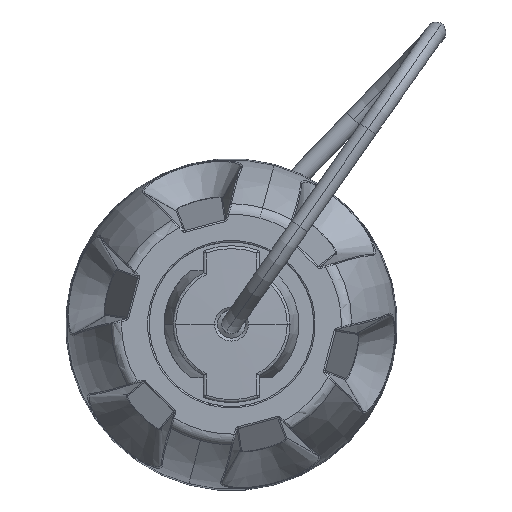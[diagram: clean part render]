
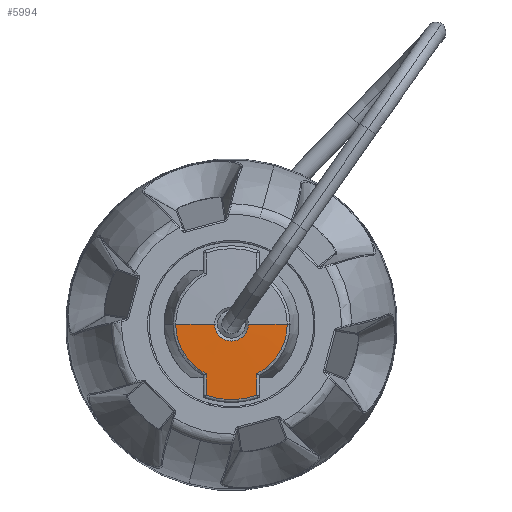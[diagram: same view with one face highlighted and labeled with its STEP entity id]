
A CAD part, top view. The second image highlights one B-rep face of the part: STEP entity #5994.
In plain terms, the highlighted conical face has half-angle 89 degrees and reference radius 57290 mm.
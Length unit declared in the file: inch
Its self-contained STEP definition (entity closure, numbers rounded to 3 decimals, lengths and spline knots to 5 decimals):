
#122 = CARTESIAN_POINT ( 'NONE',  ( 0.05709, 0., 1.08168 ) ) ;
#196 = CARTESIAN_POINT ( 'NONE',  ( 0., 0., 1.07824 ) ) ;
#431 = CARTESIAN_POINT ( 'NONE',  ( -0.08472, -0.16731, 1.0794 ) ) ;
#523 = EDGE_CURVE ( 'NONE', #9542, #9767, #1477, .T. ) ;
#581 = CARTESIAN_POINT ( 'NONE',  ( -0.08472, -0.18101, 1.07919 ) ) ;
#950 = LINE ( 'NONE', #15019, #9457 ) ;
#998 = CIRCLE ( 'NONE', #14869, 0.18754 ) ;
#1098 = CARTESIAN_POINT ( 'NONE',  ( 0.08472, -0.16731, 1.0794 ) ) ;
#1185 = EDGE_CURVE ( 'NONE', #4935, #11068, #7330, .T. ) ;
#1477 = CIRCLE ( 'NONE', #3401, 0.05709 ) ;
#1705 = B_SPLINE_CURVE_WITH_KNOTS ( 'NONE', 3,
 ( #431, #581, #10903, #9753, #5137, #12371, #12299 ),
 .UNSPECIFIED., .F., .F.,
 ( 4, 3, 4 ),
 ( 0., 0.00104, 0.00184 ),
 .UNSPECIFIED. ) ;
#1947 = DIRECTION ( 'NONE',  ( 1., 0., -0.017 ) ) ;
#2013 = AXIS2_PLACEMENT_3D ( 'NONE', #12815, #13875, #10503 ) ;
#2123 = DIRECTION ( 'NONE',  ( -1., 0., -0.017 ) ) ;
#2327 = EDGE_CURVE ( 'NONE', #5267, #8044, #1705, .T. ) ;
#2463 = CARTESIAN_POINT ( 'NONE',  ( 0.08471, -0.19365, 1.07899 ) ) ;
#2516 = ORIENTED_EDGE ( 'NONE', *, *, #2327, .T. ) ;
#2754 = ORIENTED_EDGE ( 'NONE', *, *, #3947, .T. ) ;
#2824 = EDGE_CURVE ( 'NONE', #9542, #3795, #950, .T. ) ;
#2992 = CARTESIAN_POINT ( 'NONE',  ( 0.08472, -0.16731, 1.0794 ) ) ;
#3401 = AXIS2_PLACEMENT_3D ( 'NONE', #10186, #11118, #13496 ) ;
#3435 = CARTESIAN_POINT ( 'NONE',  ( 0.08472, -0.18053, 1.0792 ) ) ;
#3543 = CARTESIAN_POINT ( 'NONE',  ( 0.0847, -0.23958, 1.07824 ) ) ;
#3795 = VERTEX_POINT ( 'NONE', #7159 ) ;
#3947 = EDGE_CURVE ( 'NONE', #8044, #4935, #9727, .T. ) ;
#4071 = ORIENTED_EDGE ( 'NONE', *, *, #5083, .T. ) ;
#4112 = CARTESIAN_POINT ( 'NONE',  ( 0., 0., 1.0794 ) ) ;
#4284 = LINE ( 'NONE', #12535, #9477 ) ;
#4738 = FACE_OUTER_BOUND ( 'NONE', #14630, .T. ) ;
#4859 = CARTESIAN_POINT ( 'NONE',  ( -0.08472, -0.16731, 1.0794 ) ) ;
#4935 = VERTEX_POINT ( 'NONE', #3543 ) ;
#4962 = CARTESIAN_POINT ( 'NONE',  ( 0., 0., -38.2874 ) ) ;
#5083 = EDGE_CURVE ( 'NONE', #9006, #5267, #998, .T. ) ;
#5137 = CARTESIAN_POINT ( 'NONE',  ( -0.08471, -0.21879, 1.07858 ) ) ;
#5267 = VERTEX_POINT ( 'NONE', #4859 ) ;
#5586 = CONICAL_SURFACE ( 'NONE', #11186, 2255.5103, 1.553 ) ;
#5738 = DIRECTION ( 'NONE',  ( 1., 0., 0. ) ) ;
#5994 = ADVANCED_FACE ( 'NONE', ( #4738 ), #5586, .T. ) ;
#6181 = DIRECTION ( 'NONE',  ( 1., 0., 0. ) ) ;
#6495 = ORIENTED_EDGE ( 'NONE', *, *, #2824, .F. ) ;
#6605 = EDGE_CURVE ( 'NONE', #9767, #9006, #4284, .T. ) ;
#6822 = CIRCLE ( 'NONE', #2013, 0.18754 ) ;
#7053 = CARTESIAN_POINT ( 'NONE',  ( -0.18754, 0., 1.0794 ) ) ;
#7057 = CARTESIAN_POINT ( 'NONE',  ( 0.08472, -0.17612, 1.07927 ) ) ;
#7110 = CARTESIAN_POINT ( 'NONE',  ( -0.05709, 0., 1.08168 ) ) ;
#7159 = CARTESIAN_POINT ( 'NONE',  ( 0.18754, 0., 1.0794 ) ) ;
#7330 = B_SPLINE_CURVE_WITH_KNOTS ( 'NONE', 3,
 ( #9333, #14162, #12643, #8198, #11485, #2463, #3435, #7057, #10396, #1098 ),
 .UNSPECIFIED., .F., .F.,
 ( 4, 3, 3, 4 ),
 ( 0., 0.0005, 0.0015, 0.00184 ),
 .UNSPECIFIED. ) ;
#7402 = ORIENTED_EDGE ( 'NONE', *, *, #523, .T. ) ;
#7719 = EDGE_CURVE ( 'NONE', #11068, #3795, #6822, .T. ) ;
#8044 = VERTEX_POINT ( 'NONE', #10211 ) ;
#8198 = CARTESIAN_POINT ( 'NONE',  ( 0.08471, -0.21989, 1.07856 ) ) ;
#8375 = DIRECTION ( 'NONE',  ( 0., 0., -1. ) ) ;
#8746 = DIRECTION ( 'NONE',  ( 0., 0., 1. ) ) ;
#8939 = ORIENTED_EDGE ( 'NONE', *, *, #6605, .T. ) ;
#9006 = VERTEX_POINT ( 'NONE', #7053 ) ;
#9219 = DIRECTION ( 'NONE',  ( 0., 0., 1. ) ) ;
#9237 = AXIS2_PLACEMENT_3D ( 'NONE', #196, #9219, #5738 ) ;
#9333 = CARTESIAN_POINT ( 'NONE',  ( 0.0847, -0.23958, 1.07824 ) ) ;
#9457 = VECTOR ( 'NONE', #1947, 39.37008 ) ;
#9477 = VECTOR ( 'NONE', #2123, 39.37008 ) ;
#9542 = VERTEX_POINT ( 'NONE', #122 ) ;
#9553 = ORIENTED_EDGE ( 'NONE', *, *, #7719, .T. ) ;
#9727 = CIRCLE ( 'NONE', #9237, 0.25411 ) ;
#9753 = CARTESIAN_POINT ( 'NONE',  ( -0.08471, -0.2084, 1.07875 ) ) ;
#9767 = VERTEX_POINT ( 'NONE', #7110 ) ;
#10004 = ORIENTED_EDGE ( 'NONE', *, *, #1185, .T. ) ;
#10186 = CARTESIAN_POINT ( 'NONE',  ( 0., 0., 1.08168 ) ) ;
#10211 = CARTESIAN_POINT ( 'NONE',  ( -0.0847, -0.23958, 1.07824 ) ) ;
#10396 = CARTESIAN_POINT ( 'NONE',  ( 0.08472, -0.17171, 1.07934 ) ) ;
#10503 = DIRECTION ( 'NONE',  ( 1., 0., 0. ) ) ;
#10903 = CARTESIAN_POINT ( 'NONE',  ( -0.08471, -0.1947, 1.07897 ) ) ;
#11068 = VERTEX_POINT ( 'NONE', #2992 ) ;
#11118 = DIRECTION ( 'NONE',  ( 0., 0., -1. ) ) ;
#11186 = AXIS2_PLACEMENT_3D ( 'NONE', #4962, #8375, #11654 ) ;
#11485 = CARTESIAN_POINT ( 'NONE',  ( 0.08471, -0.20677, 1.07878 ) ) ;
#11654 = DIRECTION ( 'NONE',  ( -1., 0., 0. ) ) ;
#12299 = CARTESIAN_POINT ( 'NONE',  ( -0.0847, -0.23958, 1.07824 ) ) ;
#12371 = CARTESIAN_POINT ( 'NONE',  ( -0.08471, -0.22919, 1.07841 ) ) ;
#12535 = CARTESIAN_POINT ( 'NONE',  ( 0., 0., 1.08268 ) ) ;
#12643 = CARTESIAN_POINT ( 'NONE',  ( 0.08471, -0.22645, 1.07846 ) ) ;
#12815 = CARTESIAN_POINT ( 'NONE',  ( 0., 0., 1.0794 ) ) ;
#13496 = DIRECTION ( 'NONE',  ( 1., 0., 0. ) ) ;
#13875 = DIRECTION ( 'NONE',  ( 0., 0., 1. ) ) ;
#14162 = CARTESIAN_POINT ( 'NONE',  ( 0.0847, -0.23302, 1.07835 ) ) ;
#14630 = EDGE_LOOP ( 'NONE', ( #6495, #7402, #8939, #4071, #2516, #2754, #10004, #9553 ) ) ;
#14869 = AXIS2_PLACEMENT_3D ( 'NONE', #4112, #8746, #6181 ) ;
#15019 = CARTESIAN_POINT ( 'NONE',  ( 0., 0., 1.08268 ) ) ;
